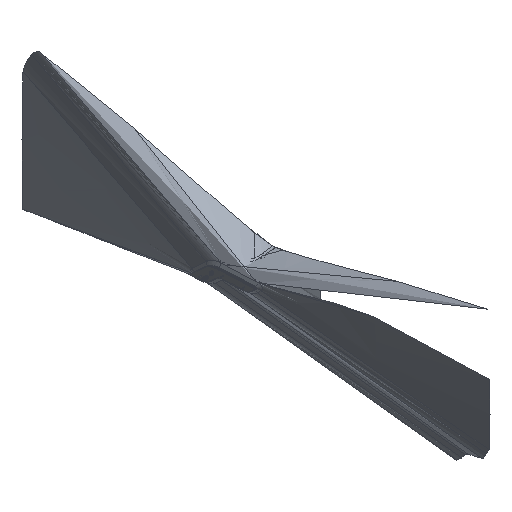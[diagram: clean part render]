
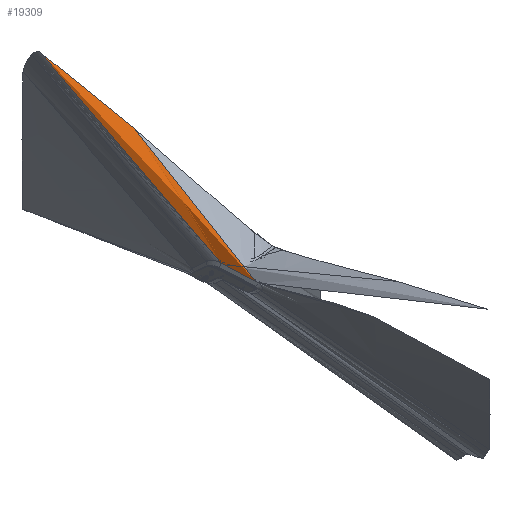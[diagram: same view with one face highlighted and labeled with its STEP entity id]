
A CAD part, isometric view. The second image highlights one B-rep face of the part: STEP entity #19309.
In plain terms, the highlighted free-form (B-spline) face has degree [5, 1] with [9, 2] control points.
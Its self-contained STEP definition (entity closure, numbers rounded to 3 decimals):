
#17930=CARTESIAN_POINT('Vertex',(25.,-161.455,128.149)) ;
#18522=CARTESIAN_POINT('Vertex',(200.,1074.38,495.085)) ;
#18530=CARTESIAN_POINT('Control Point',(25.,-161.455,128.149)) ;
#18531=CARTESIAN_POINT('Control Point',(200.,1074.38,495.085)) ;
#19211=CARTESIAN_POINT('Control Point',(25.,-362.878,136.943)) ;
#19212=CARTESIAN_POINT('Control Point',(641.559,2767.148,1007.895)) ;
#19213=CARTESIAN_POINT('Control Point',(25.,-359.002,136.774)) ;
#19214=CARTESIAN_POINT('Control Point',(600.18,2775.786,1007.895)) ;
#19215=CARTESIAN_POINT('Control Point',(25.,-354.223,136.565)) ;
#19216=CARTESIAN_POINT('Control Point',(569.967,2781.339,1007.895)) ;
#19217=CARTESIAN_POINT('Control Point',(25.,-341.519,136.011)) ;
#19218=CARTESIAN_POINT('Control Point',(542.629,2786.349,1007.895)) ;
#19219=CARTESIAN_POINT('Control Point',(25.,-293.447,133.912)) ;
#19220=CARTESIAN_POINT('Control Point',(494.095,2794.285,1007.895)) ;
#19221=CARTESIAN_POINT('Control Point',(25.,-233.176,131.28)) ;
#19222=CARTESIAN_POINT('Control Point',(462.316,2798.996,1007.895)) ;
#19223=CARTESIAN_POINT('Control Point',(25.,-212.933,130.397)) ;
#19224=CARTESIAN_POINT('Control Point',(453.187,2800.3,1007.895)) ;
#19225=CARTESIAN_POINT('Control Point',(25.,-186.627,129.248)) ;
#19226=CARTESIAN_POINT('Control Point',(446.991,2801.174,1007.895)) ;
#19227=CARTESIAN_POINT('Control Point',(25.,-161.455,128.149)) ;
#19228=CARTESIAN_POINT('Control Point',(444.57,2801.514,1007.895)) ;
#19230=CARTESIAN_POINT('Control Point',(200.,1074.38,495.085)) ;
#19231=CARTESIAN_POINT('Control Point',(200.,1072.172,494.937)) ;
#19232=CARTESIAN_POINT('Control Point',(200.,1069.935,494.762)) ;
#19233=CARTESIAN_POINT('Control Point',(200.,1067.684,494.566)) ;
#19234=CARTESIAN_POINT('Control Point',(200.,1062.521,494.077)) ;
#19235=CARTESIAN_POINT('Control Point',(200.,1057.315,493.507)) ;
#19236=CARTESIAN_POINT('Control Point',(200.,1054.388,493.166)) ;
#19237=CARTESIAN_POINT('Control Point',(200.,1042.905,491.76)) ;
#19238=CARTESIAN_POINT('Control Point',(200.,1031.405,490.115)) ;
#19239=CARTESIAN_POINT('Control Point',(200.,1022.877,488.814)) ;
#19240=CARTESIAN_POINT('Control Point',(200.,1008.28,486.475)) ;
#19241=CARTESIAN_POINT('Control Point',(200.,993.745,483.999)) ;
#19242=CARTESIAN_POINT('Control Point',(200.,987.693,482.948)) ;
#19243=CARTESIAN_POINT('Control Point',(200.,973.832,480.502)) ;
#19244=CARTESIAN_POINT('Control Point',(200.,960.003,477.988)) ;
#19245=CARTESIAN_POINT('Control Point',(200.,952.217,476.555)) ;
#19246=CARTESIAN_POINT('Control Point',(200.,934.142,473.197)) ;
#19247=CARTESIAN_POINT('Control Point',(200.,916.086,469.78)) ;
#19248=CARTESIAN_POINT('Control Point',(200.,905.81,467.82)) ;
#19249=CARTESIAN_POINT('Control Point',(200.,891.39,465.052)) ;
#19250=CARTESIAN_POINT('Control Point',(200.,876.997,462.257)) ;
#19251=CARTESIAN_POINT('Control Point',(200.,872.791,461.437)) ;
#19252=CARTESIAN_POINT('Control Point',(200.,859.951,458.929)) ;
#19253=CARTESIAN_POINT('Control Point',(200.,847.139,456.403)) ;
#19254=CARTESIAN_POINT('Control Point',(200.,838.47,454.685)) ;
#19255=CARTESIAN_POINT('Control Point',(200.,816.303,450.265)) ;
#19256=CARTESIAN_POINT('Control Point',(200.,794.261,445.805)) ;
#19257=CARTESIAN_POINT('Control Point',(200.,780.87,443.07)) ;
#19258=CARTESIAN_POINT('Control Point',(200.,752.203,437.149)) ;
#19259=CARTESIAN_POINT('Control Point',(200.,723.891,431.145)) ;
#19260=CARTESIAN_POINT('Control Point',(200.,708.846,427.902)) ;
#19261=CARTESIAN_POINT('Control Point',(200.,683.21,422.271)) ;
#19262=CARTESIAN_POINT('Control Point',(200.,657.987,416.537)) ;
#19263=CARTESIAN_POINT('Control Point',(200.,647.506,414.119)) ;
#19264=CARTESIAN_POINT('Control Point',(200.,625.091,408.869)) ;
#19265=CARTESIAN_POINT('Control Point',(200.,602.972,403.531)) ;
#19266=CARTESIAN_POINT('Control Point',(200.,591.211,400.65)) ;
#19267=CARTESIAN_POINT('Control Point',(200.,570.999,395.639)) ;
#19268=CARTESIAN_POINT('Control Point',(200.,550.88,390.575)) ;
#19269=CARTESIAN_POINT('Control Point',(200.,542.431,388.438)) ;
#19270=CARTESIAN_POINT('Control Point',(200.,533.984,386.296)) ;
#19271=CARTESIAN_POINT('Control Point',(200.,525.53,384.149)) ;
#19272=CARTESIAN_POINT('Vertex',(200.,525.53,384.149)) ;
#19276=CARTESIAN_POINT('Control Point',(25.,-183.835,129.126)) ;
#19277=CARTESIAN_POINT('Control Point',(25.,-179.406,128.933)) ;
#19278=CARTESIAN_POINT('Control Point',(25.,-174.934,128.737)) ;
#19279=CARTESIAN_POINT('Control Point',(25.,-170.432,128.541)) ;
#19280=CARTESIAN_POINT('Control Point',(25.,-165.925,128.344)) ;
#19281=CARTESIAN_POINT('Control Point',(25.,-161.455,128.149)) ;
#19282=CARTESIAN_POINT('Vertex',(25.,-183.835,129.126)) ;
#19286=CARTESIAN_POINT('Control Point',(25.,-362.878,136.943)) ;
#19287=CARTESIAN_POINT('Control Point',(25.,-359.002,136.774)) ;
#19288=CARTESIAN_POINT('Control Point',(25.,-354.223,136.565)) ;
#19289=CARTESIAN_POINT('Control Point',(25.,-341.519,136.011)) ;
#19290=CARTESIAN_POINT('Control Point',(25.,-296.636,134.051)) ;
#19291=CARTESIAN_POINT('Control Point',(25.,-241.12,131.627)) ;
#19292=CARTESIAN_POINT('Control Point',(25.,-223.912,130.876)) ;
#19293=CARTESIAN_POINT('Control Point',(25.,-204.342,130.022)) ;
#19294=CARTESIAN_POINT('Control Point',(25.,-183.835,129.126)) ;
#19295=CARTESIAN_POINT('Vertex',(25.,-362.878,136.943)) ;
#19299=CARTESIAN_POINT('Control Point',(25.,-362.878,136.943)) ;
#19300=CARTESIAN_POINT('Control Point',(200.,525.53,384.149)) ;
#19303=ORIENTED_EDGE('',*,*,#19274,.F.) ;
#19304=ORIENTED_EDGE('',*,*,#18532,.F.) ;
#19305=ORIENTED_EDGE('',*,*,#19284,.F.) ;
#19306=ORIENTED_EDGE('',*,*,#19297,.F.) ;
#19307=ORIENTED_EDGE('',*,*,#19301,.T.) ;
#19309=ADVANCED_FACE('Geometric Visibility Cone /LH+RH / Direction Indicator',(#19308),#19210,.F.) ;
#18529=B_SPLINE_CURVE_WITH_KNOTS('',1,(#18530,#18531),.UNSPECIFIED.,.F.,.U.,(2,2),(0.,1285.448),.UNSPECIFIED.) ;
#19229=B_SPLINE_CURVE_WITH_KNOTS('',5,(#19230,#19231,#19232,#19233,#19234,#19235,#19236,#19237,#19238,#19239,#19240,#19241,#19242,#19243,#19244,#19245,#19246,#19247,#19248,#19249,#19250,#19251,#19252,#19253,#19254,#19255,#19256,#19257,#19258,#19259,#19260,#19261,#19262,#19263,#19264,#19265,#19266,#19267,#19268,#19269,#19270,#19271),.UNSPECIFIED.,.F.,.U.,(6,3,3,3,3,3,3,3,3,3,3,3,3,6),(0.002,14.78,33.681,88.846,128.33,179.353,246.794,274.063,331.39,420.961,524.177,598.503,684.166,746.272),.UNSPECIFIED.) ;
#19275=B_SPLINE_CURVE_WITH_KNOTS('',5,(#19276,#19277,#19278,#19279,#19280,#19281),.UNSPECIFIED.,.F.,.U.,(6,6),(223.683,239.579),.UNSPECIFIED.) ;
#19285=B_SPLINE_CURVE_WITH_KNOTS('',5,(#19286,#19287,#19288,#19289,#19290,#19291,#19292,#19293,#19294),.UNSPECIFIED.,.F.,.U.,(6,3,6),(0.,150.077,223.683),.UNSPECIFIED.) ;
#19298=B_SPLINE_CURVE_WITH_KNOTS('',1,(#19299,#19300),.UNSPECIFIED.,.F.,.U.,(2,2),(0.,906.601),.UNSPECIFIED.) ;
#19210=B_SPLINE_SURFACE_WITH_KNOTS('',5,1,((#19211,#19212),(#19213,#19214),(#19215,#19216),(#19217,#19218),(#19219,#19220),(#19221,#19222),(#19223,#19224),(#19225,#19226),(#19227,#19228)),.UNSPECIFIED.,.F.,.F.,.U.,(6,3,6),(2,2),(0.,150.077,239.579),(0.,3194.126),.UNSPECIFIED.) ;
#18532=EDGE_CURVE('',#17931,#18523,#18529,.T.) ;
#19274=EDGE_CURVE('',#18523,#19273,#19229,.T.) ;
#19284=EDGE_CURVE('',#19283,#17931,#19275,.T.) ;
#19297=EDGE_CURVE('',#19296,#19283,#19285,.T.) ;
#19301=EDGE_CURVE('',#19296,#19273,#19298,.T.) ;
#19302=EDGE_LOOP('',(#19303,#19304,#19305,#19306,#19307)) ;
#19308=FACE_OUTER_BOUND('',#19302,.T.) ;
#17931=VERTEX_POINT('',#17930) ;
#18523=VERTEX_POINT('',#18522) ;
#19273=VERTEX_POINT('',#19272) ;
#19283=VERTEX_POINT('',#19282) ;
#19296=VERTEX_POINT('',#19295) ;
